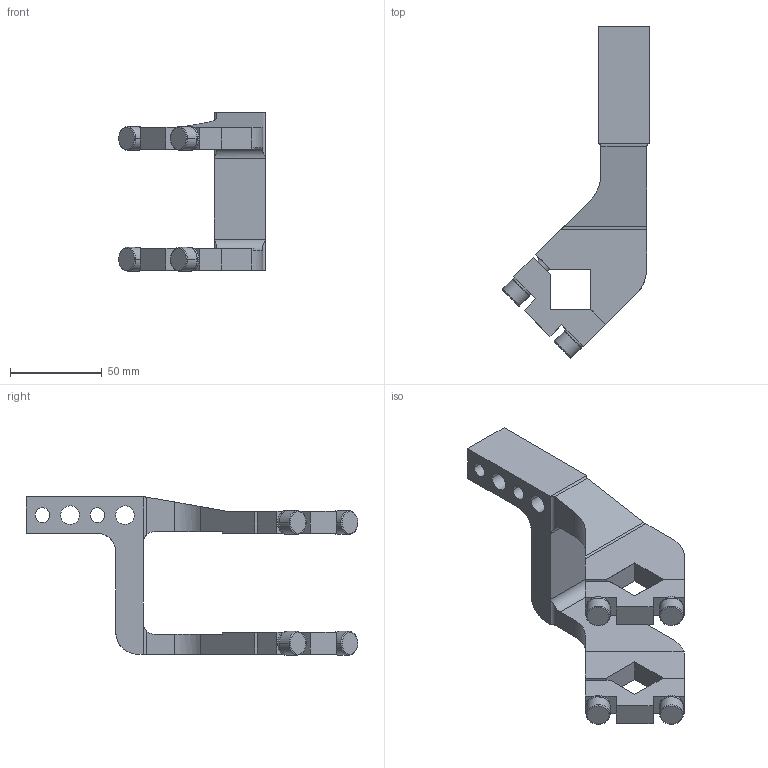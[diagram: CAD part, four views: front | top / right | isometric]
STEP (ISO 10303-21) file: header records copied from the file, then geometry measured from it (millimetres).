
FILE_DESCRIPTION(('CATIA V5 STEP Exchange','CAx-IF Rec.Pracs.--- Model Styling and Organization---1.4--- 2014-01-23'),'2;1');
FILE_NAME('C:\Users\Administrator\Desktop\气缸压臂\arm_K63_15_A92_Clampact.stp','2024-06-11T10:11:02+00:00',('none'),('none'),'CATIA Version 5-6 Release 2018 SP6','CATIA V5 STEP AP214','none');
FILE_SCHEMA(('AUTOMOTIVE_DESIGN { 1 0 10303 214 1 1 1 1 }'));
Length unit declared in the file: millimetre
Products named in the file (1): arm_K63_15_A92_Clampact
Bounding box: 80.22 x 181.22 x 86.5 mm (x, y, z)
Volume: 158096.3 mm3; surface area: 43869.5 mm2
Topology: 1 solids, 5 shells, 172 faces, 443 edges, 281 vertices
Faces by surface type: plane 90, cylinder 50, cone 20, torus 12
Entity records: 5427 total; most frequent: CARTESIAN_POINT 1655, ORIENTED_EDGE 870, DIRECTION 579, EDGE_CURVE 435, VERTEX_POINT 281, VECTOR 242, LINE 242, AXIS2_PLACEMENT_3D 211
